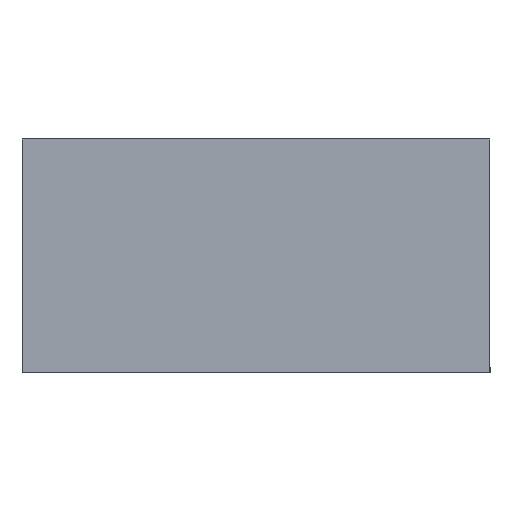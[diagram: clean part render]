
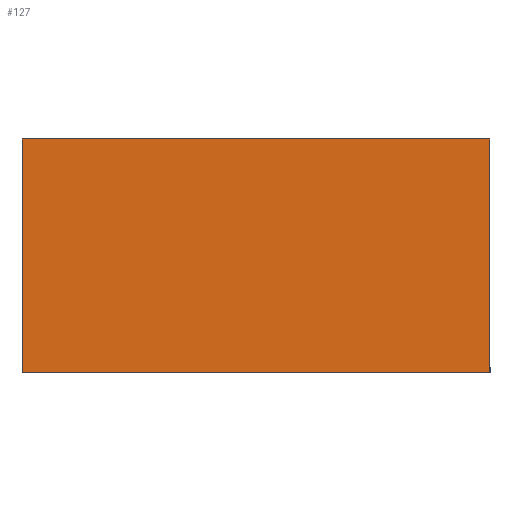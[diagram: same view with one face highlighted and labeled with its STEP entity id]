
A CAD part, front view. The second image highlights one B-rep face of the part: STEP entity #127.
In plain terms, the highlighted planar face has unit normal (0, -1, 0).
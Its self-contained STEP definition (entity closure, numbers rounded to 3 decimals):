
#1 = EDGE_LOOP ( 'NONE', ( #206, #227, #113, #135 ) ) ;
#2 = VECTOR ( 'NONE', #174, 1000. ) ;
#6 = VECTOR ( 'NONE', #230, 1000. ) ;
#11 = CARTESIAN_POINT ( 'NONE',  ( -24., -313.5, 24. ) ) ;
#15 = CARTESIAN_POINT ( 'NONE',  ( -24., -313.5, 24. ) ) ;
#26 = CARTESIAN_POINT ( 'NONE',  ( -24., -313.5, 24. ) ) ;
#27 = LINE ( 'NONE', #98, #116 ) ;
#29 = CARTESIAN_POINT ( 'NONE',  ( -24., -313.5, 0. ) ) ;
#30 = FACE_OUTER_BOUND ( 'NONE', #1, .T. ) ;
#39 = EDGE_CURVE ( 'NONE', #205, #94, #111, .T. ) ;
#80 = AXIS2_PLACEMENT_3D ( 'NONE', #11, #232, #195 ) ;
#85 = LINE ( 'NONE', #29, #6 ) ;
#87 = CARTESIAN_POINT ( 'NONE',  ( 24., -313.5, 0. ) ) ;
#94 = VERTEX_POINT ( 'NONE', #197 ) ;
#98 = CARTESIAN_POINT ( 'NONE',  ( 24., -313.5, 24. ) ) ;
#103 = CARTESIAN_POINT ( 'NONE',  ( -24., -313.5, 24. ) ) ;
#111 = LINE ( 'NONE', #26, #2 ) ;
#113 = ORIENTED_EDGE ( 'NONE', *, *, #213, .F. ) ;
#116 = VECTOR ( 'NONE', #159, 1000. ) ;
#120 = VECTOR ( 'NONE', #201, 1000. ) ;
#127 = ADVANCED_FACE ( 'NONE', ( #30 ), #158, .F. ) ;
#130 = EDGE_CURVE ( 'NONE', #94, #222, #85, .T. ) ;
#135 = ORIENTED_EDGE ( 'NONE', *, *, #39, .T. ) ;
#150 = EDGE_CURVE ( 'NONE', #204, #222, #27, .T. ) ;
#158 = PLANE ( 'NONE',  #80 ) ;
#159 = DIRECTION ( 'NONE',  ( 0., 0., -1. ) ) ;
#174 = DIRECTION ( 'NONE',  ( 0., 0., -1. ) ) ;
#195 = DIRECTION ( 'NONE',  ( 0., 0., 1. ) ) ;
#197 = CARTESIAN_POINT ( 'NONE',  ( -24., -313.5, 0. ) ) ;
#201 = DIRECTION ( 'NONE',  ( 1., 0., 0. ) ) ;
#204 = VERTEX_POINT ( 'NONE', #235 ) ;
#205 = VERTEX_POINT ( 'NONE', #15 ) ;
#206 = ORIENTED_EDGE ( 'NONE', *, *, #130, .T. ) ;
#213 = EDGE_CURVE ( 'NONE', #205, #204, #220, .T. ) ;
#220 = LINE ( 'NONE', #103, #120 ) ;
#222 = VERTEX_POINT ( 'NONE', #87 ) ;
#227 = ORIENTED_EDGE ( 'NONE', *, *, #150, .F. ) ;
#230 = DIRECTION ( 'NONE',  ( 1., 0., 0. ) ) ;
#232 = DIRECTION ( 'NONE',  ( 0., 1., 0. ) ) ;
#235 = CARTESIAN_POINT ( 'NONE',  ( 24., -313.5, 24. ) ) ;
